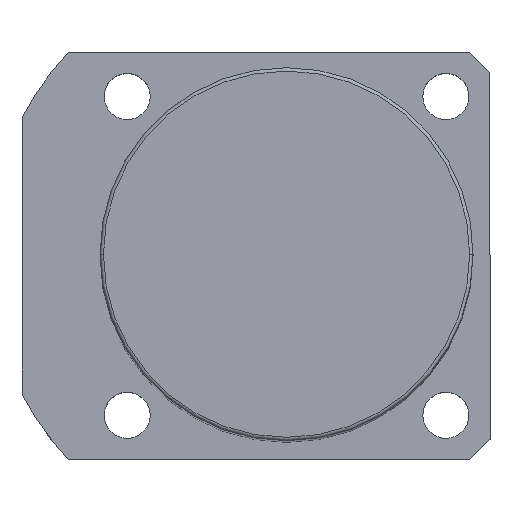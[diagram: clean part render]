
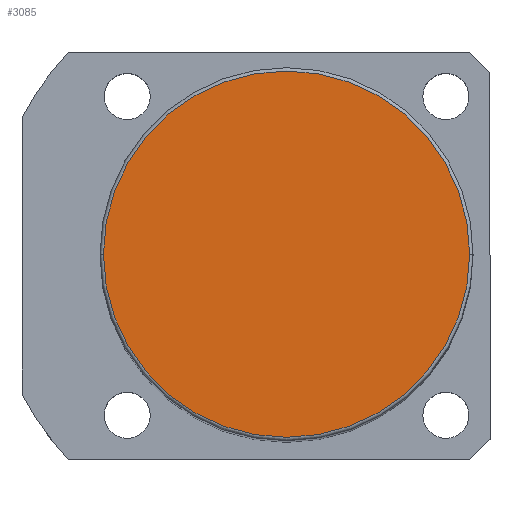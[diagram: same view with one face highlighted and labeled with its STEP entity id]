
A CAD part, top view. The second image highlights one B-rep face of the part: STEP entity #3085.
In plain terms, the highlighted planar face has unit normal (0, 0, 1).
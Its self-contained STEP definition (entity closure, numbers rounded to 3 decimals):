
#24 = VERTEX_POINT ( 'NONE', #2673 ) ;
#108 = CARTESIAN_POINT ( 'NONE',  ( 0., 0., 151. ) ) ;
#477 = CIRCLE ( 'NONE', #1908, 27. ) ;
#493 = DIRECTION ( 'NONE',  ( 0., 0., 1. ) ) ;
#569 = CARTESIAN_POINT ( 'NONE',  ( 0., 0., 151. ) ) ;
#635 = CARTESIAN_POINT ( 'NONE',  ( 27., 0., 151. ) ) ;
#962 = DIRECTION ( 'NONE',  ( 1., 0., 0. ) ) ;
#973 = FACE_OUTER_BOUND ( 'NONE', #2075, .T. ) ;
#1431 = VERTEX_POINT ( 'NONE', #635 ) ;
#1544 = ORIENTED_EDGE ( 'NONE', *, *, #4835, .T. ) ;
#1908 = AXIS2_PLACEMENT_3D ( 'NONE', #569, #3332, #962 ) ;
#2075 = EDGE_LOOP ( 'NONE', ( #1544, #2476 ) ) ;
#2234 = DIRECTION ( 'NONE',  ( 0., 0., 1. ) ) ;
#2347 = AXIS2_PLACEMENT_3D ( 'NONE', #108, #493, #3253 ) ;
#2454 = PLANE ( 'NONE',  #2347 ) ;
#2476 = ORIENTED_EDGE ( 'NONE', *, *, #2953, .T. ) ;
#2673 = CARTESIAN_POINT ( 'NONE',  ( -27., 0., 151. ) ) ;
#2796 = CIRCLE ( 'NONE', #4054, 27. ) ;
#2953 = EDGE_CURVE ( 'NONE', #24, #1431, #477, .T. ) ;
#3085 = ADVANCED_FACE ( 'NONE', ( #973 ), #2454, .T. ) ;
#3253 = DIRECTION ( 'NONE',  ( 1., 0., 0. ) ) ;
#3332 = DIRECTION ( 'NONE',  ( 0., 0., 1. ) ) ;
#4054 = AXIS2_PLACEMENT_3D ( 'NONE', #4596, #2234, #4998 ) ;
#4596 = CARTESIAN_POINT ( 'NONE',  ( 0., 0., 151. ) ) ;
#4835 = EDGE_CURVE ( 'NONE', #1431, #24, #2796, .T. ) ;
#4998 = DIRECTION ( 'NONE',  ( 1., 0., 0. ) ) ;
